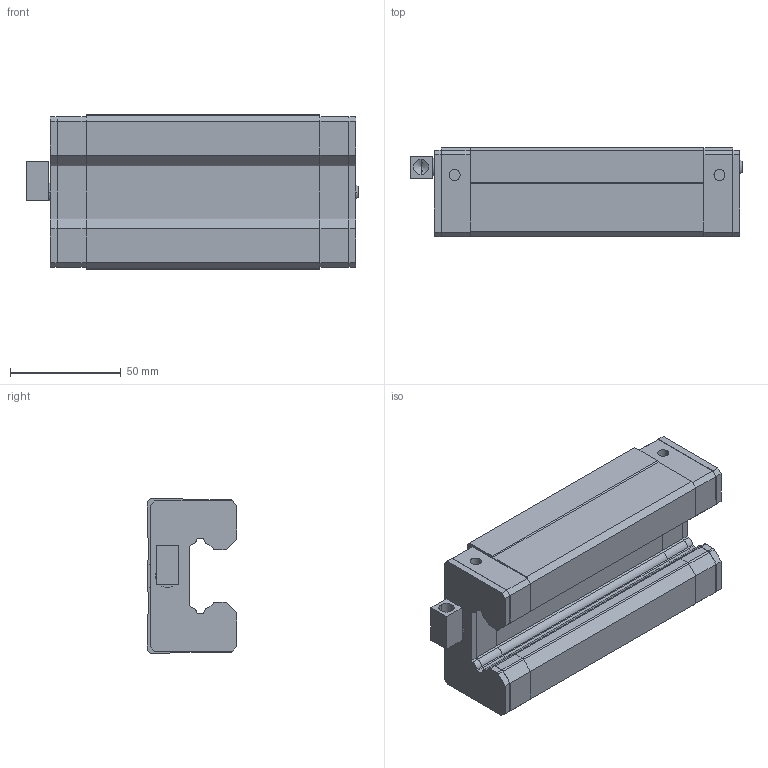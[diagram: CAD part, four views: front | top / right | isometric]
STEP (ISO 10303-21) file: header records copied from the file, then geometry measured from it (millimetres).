
FILE_DESCRIPTION (( 'STEP AP203' ), '1' );
FILE_NAME ('SGL35HA.STEP', '2025-06-27T05:30:29', ( 'Owner' ), ( 'Organization' ), 'SwSTEP 2.0', 'SolidWorks 2020', '' );
FILE_SCHEMA (( 'CONFIG_CONTROL_DESIGN' ));
Length unit declared in the file: millimetre
Products named in the file (1): SGL35HA
Bounding box: 150.2 x 40.5 x 70 mm (x, y, z)
Volume: 296479.1 mm3; surface area: 60612 mm2
Topology: 7 solids, 7 shells, 366 faces, 942 edges, 597 vertices
Faces by surface type: plane 246, cylinder 84, cone 34, torus 2
Entity records: 10982 total; most frequent: CARTESIAN_POINT 1952, ORIENTED_EDGE 1864, DIRECTION 1839, EDGE_CURVE 932, LINE 711, VECTOR 711, VERTEX_POINT 597, AXIS2_PLACEMENT_3D 564
